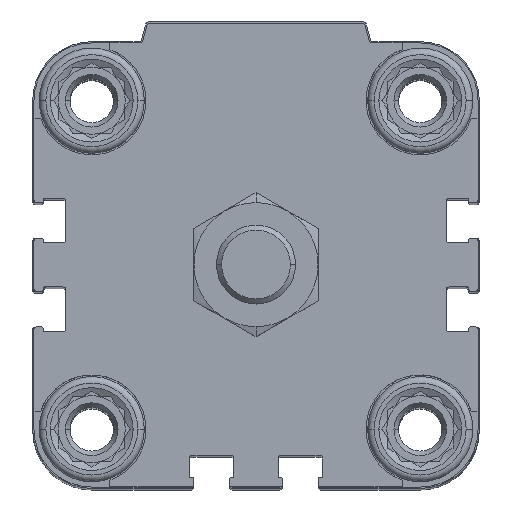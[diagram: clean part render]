
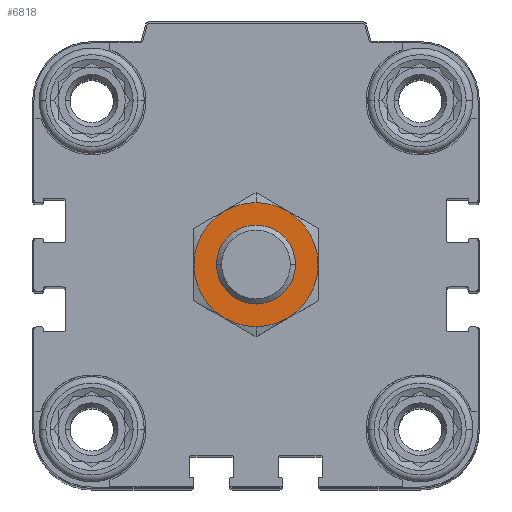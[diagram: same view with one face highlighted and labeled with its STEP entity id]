
A CAD part, top view. The second image highlights one B-rep face of the part: STEP entity #6818.
In plain terms, the highlighted planar face has unit normal (0, 0, 1).
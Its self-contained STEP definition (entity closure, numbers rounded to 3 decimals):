
#152 = CARTESIAN_POINT ( 'NONE',  ( 0., 0., 18.5 ) ) ;
#873 = CARTESIAN_POINT ( 'NONE',  ( 0., -6., 18.5 ) ) ;
#1057 = CIRCLE ( 'NONE', #1077, 9.45 ) ;
#1077 = AXIS2_PLACEMENT_3D ( 'NONE', #4927, #10815, #20139 ) ;
#1257 = ORIENTED_EDGE ( 'NONE', *, *, #12053, .F. ) ;
#1792 = DIRECTION ( 'NONE',  ( 0., 0., -1. ) ) ;
#2155 = EDGE_LOOP ( 'NONE', ( #1257, #2450 ) ) ;
#2450 = ORIENTED_EDGE ( 'NONE', *, *, #18987, .F. ) ;
#3242 = CARTESIAN_POINT ( 'NONE',  ( 0., 9.45, 18.5 ) ) ;
#3636 = CIRCLE ( 'NONE', #11858, 6. ) ;
#4657 = DIRECTION ( 'NONE',  ( 0., -1., 0. ) ) ;
#4720 = EDGE_CURVE ( 'NONE', #13797, #18156, #3636, .T. ) ;
#4927 = CARTESIAN_POINT ( 'NONE',  ( 0., 0., 18.5 ) ) ;
#5579 = DIRECTION ( 'NONE',  ( 0., -1., 0. ) ) ;
#6497 = CIRCLE ( 'NONE', #11990, 9.45 ) ;
#6679 = ORIENTED_EDGE ( 'NONE', *, *, #4720, .T. ) ;
#6818 = ADVANCED_FACE ( 'NONE', ( #15040, #23985 ), #14802, .F. ) ;
#7294 = CARTESIAN_POINT ( 'NONE',  ( 0., 0., 18.5 ) ) ;
#7798 = EDGE_CURVE ( 'NONE', #18156, #13797, #17133, .T. ) ;
#7956 = VERTEX_POINT ( 'NONE', #11110 ) ;
#8218 = CARTESIAN_POINT ( 'NONE',  ( 0., 0., 18.5 ) ) ;
#10815 = DIRECTION ( 'NONE',  ( 0., 0., -1. ) ) ;
#11110 = CARTESIAN_POINT ( 'NONE',  ( 0., -9.45, 18.5 ) ) ;
#11278 = AXIS2_PLACEMENT_3D ( 'NONE', #152, #17292, #22439 ) ;
#11858 = AXIS2_PLACEMENT_3D ( 'NONE', #14104, #12363, #4657 ) ;
#11990 = AXIS2_PLACEMENT_3D ( 'NONE', #8218, #19375, #21107 ) ;
#12053 = EDGE_CURVE ( 'NONE', #7956, #17407, #6497, .T. ) ;
#12363 = DIRECTION ( 'NONE',  ( 0., 0., -1. ) ) ;
#13797 = VERTEX_POINT ( 'NONE', #19256 ) ;
#14104 = CARTESIAN_POINT ( 'NONE',  ( 0., 0., 18.5 ) ) ;
#14802 = PLANE ( 'NONE',  #16331 ) ;
#15040 = FACE_OUTER_BOUND ( 'NONE', #2155, .T. ) ;
#16331 = AXIS2_PLACEMENT_3D ( 'NONE', #7294, #1792, #5579 ) ;
#17133 = CIRCLE ( 'NONE', #11278, 6. ) ;
#17292 = DIRECTION ( 'NONE',  ( 0., 0., -1. ) ) ;
#17407 = VERTEX_POINT ( 'NONE', #3242 ) ;
#18156 = VERTEX_POINT ( 'NONE', #873 ) ;
#18893 = EDGE_LOOP ( 'NONE', ( #6679, #21755 ) ) ;
#18987 = EDGE_CURVE ( 'NONE', #17407, #7956, #1057, .T. ) ;
#19256 = CARTESIAN_POINT ( 'NONE',  ( 0., 6., 18.5 ) ) ;
#19375 = DIRECTION ( 'NONE',  ( 0., 0., -1. ) ) ;
#20139 = DIRECTION ( 'NONE',  ( 0., -1., 0. ) ) ;
#21107 = DIRECTION ( 'NONE',  ( 0., -1., 0. ) ) ;
#21755 = ORIENTED_EDGE ( 'NONE', *, *, #7798, .T. ) ;
#22439 = DIRECTION ( 'NONE',  ( 0., -1., 0. ) ) ;
#23985 = FACE_BOUND ( 'NONE', #18893, .T. ) ;
